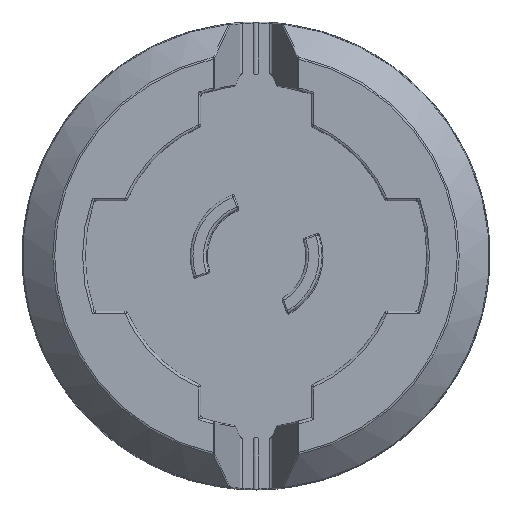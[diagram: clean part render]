
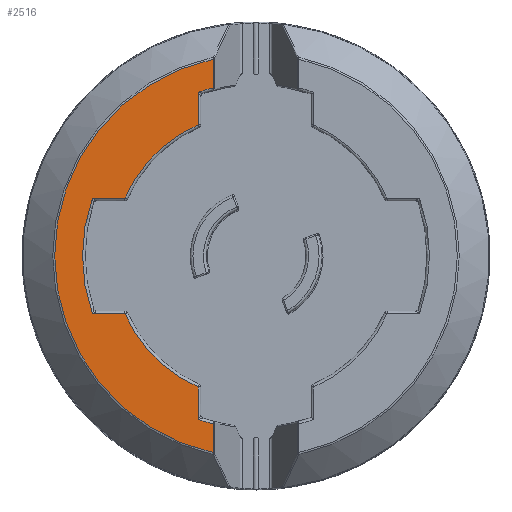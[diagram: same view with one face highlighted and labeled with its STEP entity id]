
A CAD part, top view. The second image highlights one B-rep face of the part: STEP entity #2516.
In plain terms, the highlighted planar face has unit normal (0, 0, 1).
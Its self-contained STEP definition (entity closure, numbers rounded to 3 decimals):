
#52=PLANE('',#2770);
#79=LINE('',#4271,#178);
#97=LINE('',#5021,#196);
#99=LINE('',#5103,#198);
#100=LINE('',#5107,#199);
#101=LINE('',#5111,#200);
#102=LINE('',#5114,#201);
#178=VECTOR('',#3097,10.);
#196=VECTOR('',#3231,10.);
#198=VECTOR('',#3253,10.);
#199=VECTOR('',#3256,10.);
#200=VECTOR('',#3259,10.);
#201=VECTOR('',#3262,10.);
#464=FACE_OUTER_BOUND('',#637,.T.);
#637=EDGE_LOOP('',(#1931,#1932,#1933,#1934,#1935,#1936,#1937,#1938,#1939,
#1940,#1941,#1942));
#917=CIRCLE('',#2769,66.);
#918=CIRCLE('',#2771,66.);
#919=CIRCLE('',#2772,54.5);
#920=CIRCLE('',#2773,66.);
#921=CIRCLE('',#2774,54.5);
#922=CIRCLE('',#2775,76.586);
#1066=VERTEX_POINT('',#4263);
#1068=VERTEX_POINT('',#4269);
#1141=VERTEX_POINT('',#5011);
#1143=VERTEX_POINT('',#5017);
#1148=VERTEX_POINT('',#5089);
#1149=VERTEX_POINT('',#5100);
#1150=VERTEX_POINT('',#5102);
#1151=VERTEX_POINT('',#5104);
#1152=VERTEX_POINT('',#5106);
#1153=VERTEX_POINT('',#5108);
#1154=VERTEX_POINT('',#5110);
#1155=VERTEX_POINT('',#5112);
#1324=EDGE_CURVE('',#1068,#1066,#79,.T.);
#1428=EDGE_CURVE('',#1141,#1143,#97,.T.);
#1436=EDGE_CURVE('',#1143,#1148,#917,.T.);
#1438=EDGE_CURVE('',#1149,#1068,#918,.T.);
#1439=EDGE_CURVE('',#1150,#1149,#99,.T.);
#1440=EDGE_CURVE('',#1151,#1150,#919,.T.);
#1441=EDGE_CURVE('',#1152,#1151,#100,.T.);
#1442=EDGE_CURVE('',#1153,#1152,#920,.T.);
#1443=EDGE_CURVE('',#1154,#1153,#101,.T.);
#1444=EDGE_CURVE('',#1155,#1154,#921,.T.);
#1445=EDGE_CURVE('',#1148,#1155,#102,.T.);
#1446=EDGE_CURVE('',#1066,#1141,#922,.T.);
#1931=ORIENTED_EDGE('',*,*,#1324,.F.);
#1932=ORIENTED_EDGE('',*,*,#1438,.F.);
#1933=ORIENTED_EDGE('',*,*,#1439,.F.);
#1934=ORIENTED_EDGE('',*,*,#1440,.F.);
#1935=ORIENTED_EDGE('',*,*,#1441,.F.);
#1936=ORIENTED_EDGE('',*,*,#1442,.F.);
#1937=ORIENTED_EDGE('',*,*,#1443,.F.);
#1938=ORIENTED_EDGE('',*,*,#1444,.F.);
#1939=ORIENTED_EDGE('',*,*,#1445,.F.);
#1940=ORIENTED_EDGE('',*,*,#1436,.F.);
#1941=ORIENTED_EDGE('',*,*,#1428,.F.);
#1942=ORIENTED_EDGE('',*,*,#1446,.F.);
#2516=ADVANCED_FACE('',(#464),#52,.T.);
#2769=AXIS2_PLACEMENT_3D('',#5090,#3247,#3248);
#2770=AXIS2_PLACEMENT_3D('',#5099,#3249,#3250);
#2771=AXIS2_PLACEMENT_3D('',#5101,#3251,#3252);
#2772=AXIS2_PLACEMENT_3D('',#5105,#3254,#3255);
#2773=AXIS2_PLACEMENT_3D('',#5109,#3257,#3258);
#2774=AXIS2_PLACEMENT_3D('',#5113,#3260,#3261);
#2775=AXIS2_PLACEMENT_3D('',#5115,#3263,#3264);
#3097=DIRECTION('',(0.,-1.,0.));
#3231=DIRECTION('',(0.,-1.,0.));
#3247=DIRECTION('center_axis',(0.,0.,1.));
#3248=DIRECTION('ref_axis',(-1.,0.,0.));
#3249=DIRECTION('center_axis',(0.,0.,1.));
#3250=DIRECTION('ref_axis',(1.,0.,0.));
#3251=DIRECTION('center_axis',(0.,0.,1.));
#3252=DIRECTION('ref_axis',(-1.,0.,0.));
#3253=DIRECTION('',(0.,-1.,0.));
#3254=DIRECTION('center_axis',(0.,0.,1.));
#3255=DIRECTION('ref_axis',(-0.707,-0.707,0.));
#3256=DIRECTION('',(1.,0.,0.));
#3257=DIRECTION('center_axis',(0.,0.,1.));
#3258=DIRECTION('ref_axis',(-1.,0.,0.));
#3259=DIRECTION('',(-1.,0.,0.));
#3260=DIRECTION('center_axis',(0.,0.,1.));
#3261=DIRECTION('ref_axis',(-0.707,0.707,0.));
#3262=DIRECTION('',(0.,-1.,0.));
#3263=DIRECTION('center_axis',(0.,0.,-1.));
#3264=DIRECTION('ref_axis',(-1.,0.,0.));
#4263=CARTESIAN_POINT('',(-16.306,-74.83,27.));
#4269=CARTESIAN_POINT('',(-16.306,-63.954,27.));
#4271=CARTESIAN_POINT('',(-16.306,38.5,27.));
#5011=CARTESIAN_POINT('',(-16.306,74.83,27.));
#5017=CARTESIAN_POINT('',(-16.306,63.954,27.));
#5021=CARTESIAN_POINT('',(-16.306,38.5,27.));
#5089=CARTESIAN_POINT('',(-22.,62.225,27.));
#5090=CARTESIAN_POINT('Origin',(0.,0.,27.));
#5099=CARTESIAN_POINT('Origin',(0.,77.,27.));
#5100=CARTESIAN_POINT('',(-22.,-62.225,27.));
#5101=CARTESIAN_POINT('Origin',(0.,0.,27.));
#5102=CARTESIAN_POINT('',(-22.,-49.862,27.));
#5103=CARTESIAN_POINT('',(-22.,7.743,27.));
#5104=CARTESIAN_POINT('',(-49.862,-22.,27.));
#5105=CARTESIAN_POINT('Origin',(0.,0.,
27.));
#5106=CARTESIAN_POINT('',(-62.225,-22.,27.));
#5107=CARTESIAN_POINT('',(-24.603,-22.,27.));
#5108=CARTESIAN_POINT('',(-62.225,22.,27.));
#5109=CARTESIAN_POINT('Origin',(0.,0.,27.));
#5110=CARTESIAN_POINT('',(-49.862,22.,27.));
#5111=CARTESIAN_POINT('',(-30.757,22.,27.));
#5112=CARTESIAN_POINT('',(-22.,49.862,27.));
#5113=CARTESIAN_POINT('Origin',(0.,0.,
27.));
#5114=CARTESIAN_POINT('',(-22.,63.103,27.));
#5115=CARTESIAN_POINT('Origin',(0.,0.,27.));
